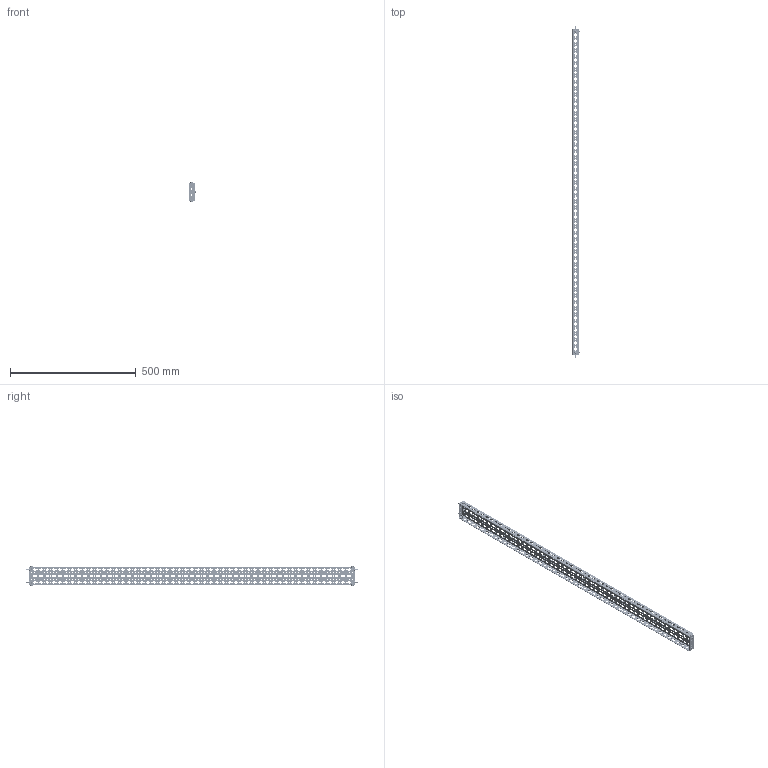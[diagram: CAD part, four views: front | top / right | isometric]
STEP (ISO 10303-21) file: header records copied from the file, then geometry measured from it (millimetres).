
FILE_DESCRIPTION(('Open CASCADE Model'),'2;1');
FILE_NAME('Open CASCADE Shape Model','2025-01-16T16:22:43',('Author'),( 'Open CASCADE'),'Open CASCADE STEP processor 7.8','Open CASCADE 7.8' ,'Unknown');
FILE_SCHEMA(('AUTOMOTIVE_DESIGN { 1 0 10303 214 1 1 1 1 }'));
Products named in the file (1): Solid1
Bounding box: 28.56 x 1320 x 82.11 mm (x, y, z)
Volume: 228821.9 mm3; surface area: 331766.2 mm2
Topology: 8 solids, 8 shells, 5724 faces, 16958 edges, 11250 vertices
Faces by surface type: cylinder 3810, plane 1814, torus 40, cone 20, bspline 20, sphere 20
Full cylindrical faces by diameter (mm): 5 x15
Entity records: 200787 total; most frequent: CARTESIAN_POINT 37288, DIRECTION 36053, ORIENTED_EDGE 33876, EDGE_CURVE 16938, AXIS2_PLACEMENT_3D 13525, VERTEX_POINT 11250, LINE 9003, VECTOR 9003
